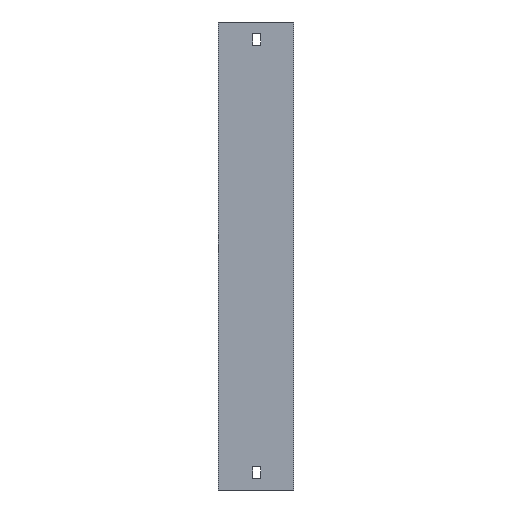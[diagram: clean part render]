
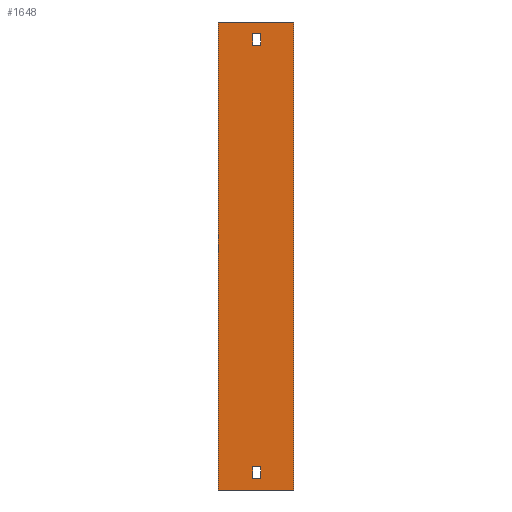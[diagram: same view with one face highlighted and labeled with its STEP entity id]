
A CAD part, left-side view. The second image highlights one B-rep face of the part: STEP entity #1648.
In plain terms, the highlighted planar face has unit normal (-1, 0, 0).
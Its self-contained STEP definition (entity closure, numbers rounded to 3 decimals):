
#23 = ORIENTED_EDGE ( 'NONE', *, *, #1342, .T. ) ;
#26 = VERTEX_POINT ( 'NONE', #1524 ) ;
#66 = LINE ( 'NONE', #391, #1533 ) ;
#102 = LINE ( 'NONE', #716, #199 ) ;
#104 = LINE ( 'NONE', #719, #282 ) ;
#113 = VERTEX_POINT ( 'NONE', #656 ) ;
#143 = EDGE_LOOP ( 'NONE', ( #1227, #1771, #813, #23 ) ) ;
#149 = DIRECTION ( 'NONE',  ( 0., -1., 0. ) ) ;
#151 = FACE_BOUND ( 'NONE', #1130, .T. ) ;
#155 = VECTOR ( 'NONE', #1153, 1000. ) ;
#177 = DIRECTION ( 'NONE',  ( 0., 0., 1. ) ) ;
#193 = LINE ( 'NONE', #1101, #1782 ) ;
#199 = VECTOR ( 'NONE', #1320, 1000. ) ;
#207 = LINE ( 'NONE', #833, #986 ) ;
#220 = CARTESIAN_POINT ( 'NONE',  ( -204., 35.5, -344. ) ) ;
#247 = CARTESIAN_POINT ( 'NONE',  ( -204., 28.5, -344. ) ) ;
#277 = VECTOR ( 'NONE', #649, 1000. ) ;
#282 = VECTOR ( 'NONE', #1770, 1000. ) ;
#336 = CARTESIAN_POINT ( 'NONE',  ( -204., 0., -354. ) ) ;
#338 = EDGE_CURVE ( 'NONE', #1831, #1440, #801, .T. ) ;
#357 = LINE ( 'NONE', #657, #509 ) ;
#378 = DIRECTION ( 'NONE',  ( 0., 0., 1. ) ) ;
#391 = CARTESIAN_POINT ( 'NONE',  ( -204., 28.5, -344. ) ) ;
#418 = LINE ( 'NONE', #1590, #1376 ) ;
#440 = VERTEX_POINT ( 'NONE', #1669 ) ;
#486 = EDGE_CURVE ( 'NONE', #113, #1349, #1805, .T. ) ;
#499 = CARTESIAN_POINT ( 'NONE',  ( -204., 35.5, -334. ) ) ;
#509 = VECTOR ( 'NONE', #378, 1000. ) ;
#524 = ORIENTED_EDGE ( 'NONE', *, *, #1721, .F. ) ;
#540 = EDGE_CURVE ( 'NONE', #440, #1676, #1601, .T. ) ;
#606 = DIRECTION ( 'NONE',  ( 1., 0., 0. ) ) ;
#619 = CARTESIAN_POINT ( 'NONE',  ( -204., 65.5, -354. ) ) ;
#649 = DIRECTION ( 'NONE',  ( 0., 0., 1. ) ) ;
#656 = CARTESIAN_POINT ( 'NONE',  ( -204., 0., -354. ) ) ;
#657 = CARTESIAN_POINT ( 'NONE',  ( -204., 65.5, -354. ) ) ;
#676 = DIRECTION ( 'NONE',  ( 0., 0., -1. ) ) ;
#688 = AXIS2_PLACEMENT_3D ( 'NONE', #1944, #606, #1216 ) ;
#716 = CARTESIAN_POINT ( 'NONE',  ( -204., 35.5, -334. ) ) ;
#719 = CARTESIAN_POINT ( 'NONE',  ( -204., 65.5, -354. ) ) ;
#776 = VERTEX_POINT ( 'NONE', #1878 ) ;
#783 = ORIENTED_EDGE ( 'NONE', *, *, #540, .F. ) ;
#788 = VECTOR ( 'NONE', #676, 1000. ) ;
#801 = LINE ( 'NONE', #1393, #277 ) ;
#813 = ORIENTED_EDGE ( 'NONE', *, *, #1772, .F. ) ;
#824 = DIRECTION ( 'NONE',  ( 0., 0., 1. ) ) ;
#833 = CARTESIAN_POINT ( 'NONE',  ( -204., 35.5, -344. ) ) ;
#870 = VECTOR ( 'NONE', #177, 1000. ) ;
#934 = ORIENTED_EDGE ( 'NONE', *, *, #1009, .F. ) ;
#946 = LINE ( 'NONE', #1552, #788 ) ;
#958 = VECTOR ( 'NONE', #149, 1000. ) ;
#986 = VECTOR ( 'NONE', #1242, 1000. ) ;
#992 = VERTEX_POINT ( 'NONE', #499 ) ;
#997 = EDGE_CURVE ( 'NONE', #1676, #1628, #66, .T. ) ;
#1009 = EDGE_CURVE ( 'NONE', #992, #440, #207, .T. ) ;
#1027 = LINE ( 'NONE', #1040, #958 ) ;
#1040 = CARTESIAN_POINT ( 'NONE',  ( -204., 65.5, 50. ) ) ;
#1056 = FACE_OUTER_BOUND ( 'NONE', #143, .T. ) ;
#1088 = DIRECTION ( 'NONE',  ( 0., 1., 0. ) ) ;
#1101 = CARTESIAN_POINT ( 'NONE',  ( -204., 35.5, 30. ) ) ;
#1112 = EDGE_CURVE ( 'NONE', #26, #1349, #1027, .T. ) ;
#1130 = EDGE_LOOP ( 'NONE', ( #783, #934, #524, #1193 ) ) ;
#1153 = DIRECTION ( 'NONE',  ( 0., -1., 0. ) ) ;
#1193 = ORIENTED_EDGE ( 'NONE', *, *, #997, .F. ) ;
#1203 = EDGE_CURVE ( 'NONE', #1239, #1831, #193, .T. ) ;
#1216 = DIRECTION ( 'NONE',  ( 0., 0., -1. ) ) ;
#1227 = ORIENTED_EDGE ( 'NONE', *, *, #486, .T. ) ;
#1239 = VERTEX_POINT ( 'NONE', #1450 ) ;
#1240 = CARTESIAN_POINT ( 'NONE',  ( -204., 35.5, 30. ) ) ;
#1242 = DIRECTION ( 'NONE',  ( 0., 0., -1. ) ) ;
#1312 = CARTESIAN_POINT ( 'NONE',  ( -204., 0., 50. ) ) ;
#1320 = DIRECTION ( 'NONE',  ( 0., 1., 0. ) ) ;
#1342 = EDGE_CURVE ( 'NONE', #1622, #113, #104, .T. ) ;
#1348 = ORIENTED_EDGE ( 'NONE', *, *, #1800, .T. ) ;
#1349 = VERTEX_POINT ( 'NONE', #1312 ) ;
#1359 = PLANE ( 'NONE',  #688 ) ;
#1375 = ORIENTED_EDGE ( 'NONE', *, *, #1203, .T. ) ;
#1376 = VECTOR ( 'NONE', #1896, 1000. ) ;
#1393 = CARTESIAN_POINT ( 'NONE',  ( -204., 35.5, 40. ) ) ;
#1396 = CARTESIAN_POINT ( 'NONE',  ( -204., 28.5, -334. ) ) ;
#1406 = ORIENTED_EDGE ( 'NONE', *, *, #1741, .T. ) ;
#1440 = VERTEX_POINT ( 'NONE', #1713 ) ;
#1450 = CARTESIAN_POINT ( 'NONE',  ( -204., 28.5, 30. ) ) ;
#1493 = FACE_BOUND ( 'NONE', #1930, .T. ) ;
#1524 = CARTESIAN_POINT ( 'NONE',  ( -204., 65.5, 50. ) ) ;
#1533 = VECTOR ( 'NONE', #824, 1000. ) ;
#1552 = CARTESIAN_POINT ( 'NONE',  ( -204., 28.5, 40. ) ) ;
#1590 = CARTESIAN_POINT ( 'NONE',  ( -204., 35.5, 40. ) ) ;
#1601 = LINE ( 'NONE', #220, #155 ) ;
#1622 = VERTEX_POINT ( 'NONE', #619 ) ;
#1628 = VERTEX_POINT ( 'NONE', #1396 ) ;
#1648 = ADVANCED_FACE ( 'NONE', ( #1056, #1493, #151 ), #1359, .F. ) ;
#1669 = CARTESIAN_POINT ( 'NONE',  ( -204., 35.5, -344. ) ) ;
#1676 = VERTEX_POINT ( 'NONE', #247 ) ;
#1713 = CARTESIAN_POINT ( 'NONE',  ( -204., 35.5, 40. ) ) ;
#1721 = EDGE_CURVE ( 'NONE', #1628, #992, #102, .T. ) ;
#1741 = EDGE_CURVE ( 'NONE', #1440, #776, #418, .T. ) ;
#1770 = DIRECTION ( 'NONE',  ( 0., -1., 0. ) ) ;
#1771 = ORIENTED_EDGE ( 'NONE', *, *, #1112, .F. ) ;
#1772 = EDGE_CURVE ( 'NONE', #1622, #26, #357, .T. ) ;
#1782 = VECTOR ( 'NONE', #1088, 1000. ) ;
#1800 = EDGE_CURVE ( 'NONE', #776, #1239, #946, .T. ) ;
#1805 = LINE ( 'NONE', #336, #870 ) ;
#1831 = VERTEX_POINT ( 'NONE', #1240 ) ;
#1878 = CARTESIAN_POINT ( 'NONE',  ( -204., 28.5, 40. ) ) ;
#1896 = DIRECTION ( 'NONE',  ( 0., -1., 0. ) ) ;
#1930 = EDGE_LOOP ( 'NONE', ( #1937, #1406, #1348, #1375 ) ) ;
#1937 = ORIENTED_EDGE ( 'NONE', *, *, #338, .T. ) ;
#1944 = CARTESIAN_POINT ( 'NONE',  ( -204., 65.5, -354. ) ) ;
